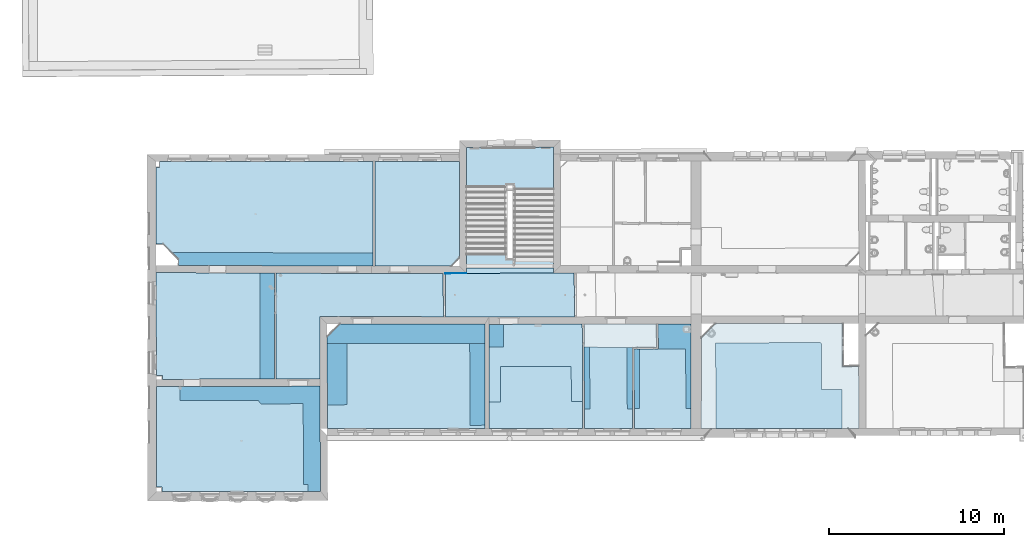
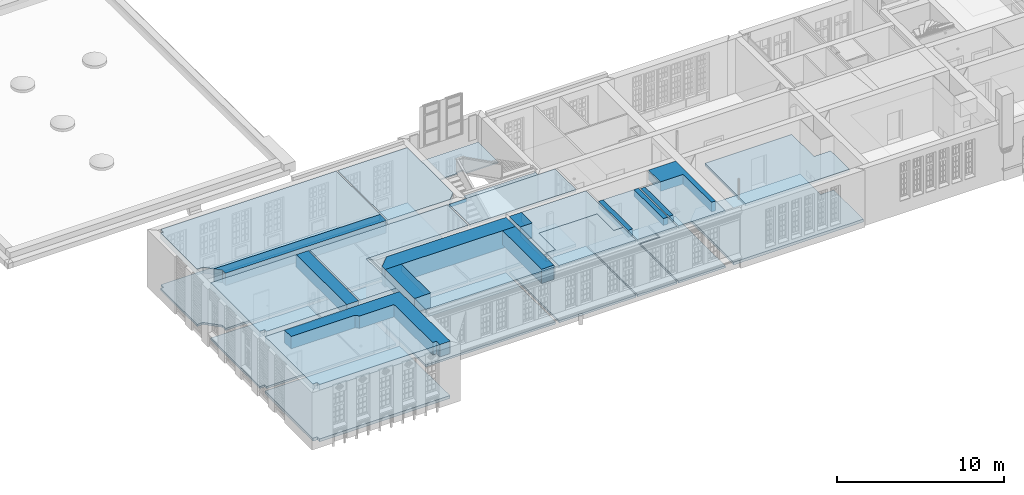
# One storey, part 2 of 90: 37 slabs.
"""IFC2X3 building model written with IfcOpenShell, lengths in metres."""

from ifc_helpers import new_model, entity, si_unit, converted_unit, derived_unit, money_unit, direction, frame, origin_with_axes, place, context, subcontext, project, spatial, polyline, outline, extrude, material, layer, layer_set, layer_usage, type_object, element, save


model = new_model("IFC2X3")

# Units and contexts
model_context = context("Model", 3, precision=1e-05, world=origin_with_axes(), true_north=direction((0.0, 1.0)))
body_context = subcontext(model_context, "Body", "Model", "MODEL_VIEW")
ifc_project = project(units=[si_unit("LENGTHUNIT", "METRE"), si_unit("AREAUNIT", "SQUARE_METRE"), si_unit("VOLUMEUNIT", "CUBIC_METRE"), converted_unit("PLANEANGLEUNIT", "DEGREE", entity("IfcPlaneAngleMeasure", 0.0174532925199), si_unit("PLANEANGLEUNIT", "RADIAN"), dimensions=[0, 0, 0, 0, 0, 0, 0]), money_unit("EUR"), converted_unit("TIMEUNIT", "Year", entity("IfcTimeMeasure", 31556926.0), si_unit("TIMEUNIT", "SECOND"), dimensions=[0, 0, 1, 0, 0, 0, 0]), si_unit("MASSUNIT", "GRAM", prefix="KILO"), si_unit("THERMODYNAMICTEMPERATUREUNIT", "DEGREE_CELSIUS"), si_unit("LUMINOUSINTENSITYUNIT", "LUMEN"), si_unit("ENERGYUNIT", "JOULE", prefix="MEGA"), derived_unit("THERMALCONDUCTANCEUNIT", [(si_unit("POWERUNIT", "WATT"), 1), (si_unit("LENGTHUNIT", "METRE"), -1), (si_unit("THERMODYNAMICTEMPERATUREUNIT", "KELVIN"), -1)]), derived_unit("SPECIFICHEATCAPACITYUNIT", [(si_unit("ENERGYUNIT", "JOULE"), 1), (si_unit("MASSUNIT", "GRAM", prefix="KILO"), -1), (si_unit("THERMODYNAMICTEMPERATUREUNIT", "KELVIN"), -1)]), derived_unit("MASSDENSITYUNIT", [(si_unit("MASSUNIT", "GRAM", prefix="KILO"), 1), (si_unit("VOLUMEUNIT", "CUBIC_METRE"), -1)])], contexts=[model_context])

# Site, building, storey
site_placement = place(None, origin_with_axes())
site = spatial("IfcSite", under=ifc_project, at=site_placement, Name="Gelände", CompositionType="ELEMENT")
building_placement = place(site_placement, origin_with_axes())
building = spatial("IfcBuilding", under=site, at=building_placement, Name="Gebäude", CompositionType="ELEMENT")
storey_placement = place(building_placement, frame((0.0, 0.0, 3.7), z_axis=(0.0, 0.0, 1.0), x_axis=(1.0, 0.0, 0.0)))
storey = spatial("IfcBuildingStorey", under=building, at=storey_placement, Name="1.OBERGESCHOSS", CompositionType="ELEMENT", Elevation=3.7)

# Slabs
ifc_material = material(Name="05_ALLGEMEIN - TRAGENDE BAUTEILE")
ifc_layer_1 = layer(ifc_material, 0.15, ventilated="UNKNOWN")
ifc_layer_set_1 = layer_set([ifc_layer_1], Name="05_ALLGEMEIN - TRAGENDE BAUTEILE 0.15")
ifc_layer_usage_1 = layer_usage(ifc_layer_set_1, "AXIS3", "NEGATIVE", 0.15)
slab_type_1 = type_object("IfcSlabType", Name="05_ALLGEMEIN - TRAGENDE BAUTEILE 150", PredefinedType="NOTDEFINED")
slab_1_placement = place(storey_placement, frame((-20.8053907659, 19.2710713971, 0.05), z_axis=(0.0, 0.0, 1.0), x_axis=(1.0, 0.0, 0.0)))
element("IfcSlab", 1, at=slab_1_placement, inside=storey, type_object=slab_type_1, material=ifc_layer_usage_1, Name="Belag-018", PredefinedType="NOTDEFINED", context=body_context, shape_type="SweptSolid", body=[
    extrude(outline(polyline([(0.0, 0.0), (-6.74704363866, 0.0269582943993), (-6.74154566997, -5.85852886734), (-6.39629284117, -5.85301119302), (-6.39316779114, -6.06708993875), (-0.00101142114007, -6.04887189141), (0.0, 0.0)])), frame((0.0, 0.0, -0.15), z_axis=(0.0, 0.0, 1.0), x_axis=(1.0, 0.0, 0.0)), (0.0, 0.0, 1.0), 0.15),
])
ifc_layer_usage_2 = layer_usage(ifc_layer_set_1, "AXIS3", "NEGATIVE", 0.15)
slab_2_placement = place(storey_placement, frame((-18.2160045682, 16.7907593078, 0.05), z_axis=(0.0, 0.0, 1.0), x_axis=(1.0, 0.0, 0.0)))
element("IfcSlab", 2, at=slab_2_placement, inside=storey, type_object=slab_type_1, material=ifc_layer_usage_2, Name="Belag-018", PredefinedType="NOTDEFINED", context=body_context, shape_type="SweptSolid", body=[
    extrude(outline(polyline([(0.0, 0.0), (7.05144080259, -0.0161533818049), (7.04643688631, 2.45947320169), (2.94969384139, 2.45818033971), (-2.48938626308, 2.47991253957), (-2.49039757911, -3.56827480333), (0.0123153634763, -3.56114191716), (0.0, 0.0)])), frame((0.0, 0.0, -0.15), z_axis=(0.0, 0.0, 1.0), x_axis=(1.0, 0.0, 0.0)), (0.0, 0.0, 1.0), 0.15),
])
ifc_layer_usage_3 = layer_usage(ifc_layer_set_1, "AXIS3", "NEGATIVE", 0.15)
slab_3_placement = place(storey_placement, frame((-27.358726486, 25.2961202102, 0.05), z_axis=(0.0, 0.0, 1.0), x_axis=(1.0, 0.0, 0.0)))
element("IfcSlab", 3, at=slab_3_placement, inside=storey, type_object=slab_type_1, material=ifc_layer_usage_3, Name="Belag-018", PredefinedType="NOTDEFINED", context=body_context, shape_type="SweptSolid", body=[
    extrude(outline(polyline([(0.0, 0.0), (-0.199317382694, 0.00674133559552), (-0.195225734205, -4.37336329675), (0.214204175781, -4.36434790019), (1.08362991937, -5.22141323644), (1.07938303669, -5.58855834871), (12.0931785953, -5.63256475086), (12.1819169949, -5.63253669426), (12.1878175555, 0.350147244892), (0.00791546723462, 0.33315417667), (0.0, 0.0)])), frame((0.0, 0.0, -0.15), z_axis=(0.0, 0.0, 1.0), x_axis=(1.0, 0.0, 0.0)), (0.0, 0.0, 1.0), 0.15),
])
ifc_layer_usage_4 = layer_usage(ifc_layer_set_1, "AXIS3", "NEGATIVE", 0.15)
slab_4_placement = place(storey_placement, frame((-15.0709087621, 25.6464069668, 0.05), z_axis=(0.0, 0.0, 1.0), x_axis=(1.0, 0.0, 0.0)))
element("IfcSlab", 4, at=slab_4_placement, inside=storey, type_object=slab_type_1, material=ifc_layer_usage_4, Name="Belag-019", PredefinedType="NOTDEFINED", context=body_context, shape_type="SweptSolid", body=[
    extrude(outline(polyline([(0.0, 0.0), (-0.0059007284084, -5.98279194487), (4.33635564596, -5.98142158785), (4.81934312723, -5.48156534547), (4.81882645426, 0.00672317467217), (0.0, 0.0)])), frame((0.0, 0.0, -0.15), z_axis=(0.0, 0.0, 1.0), x_axis=(1.0, 0.0, 0.0)), (0.0, 0.0, 1.0), 0.15),
])
ifc_layer_usage_5 = layer_usage(ifc_layer_set_1, "AXIS3", "NEGATIVE", 0.15)
slab_5_placement = place(storey_placement, frame((-17.7973566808, 15.6254754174, 0.05), z_axis=(0.0, 0.0, 1.0), x_axis=(1.0, 0.0, 0.0)))
element("IfcSlab", 5, at=slab_5_placement, inside=storey, type_object=slab_type_1, material=ifc_layer_usage_5, Name="Belag-019", PredefinedType="NOTDEFINED", context=body_context, shape_type="SweptSolid", body=[
    extrude(outline(polyline([(0.0, 0.0), (0.0180919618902, -5.23150167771), (9.01325008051, -5.23082463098), (9.0092510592, 0.729069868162), (0.756178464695, 0.747976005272), (0.0, 0.0)])), frame((0.0, 0.0, -0.15), z_axis=(0.0, 0.0, 1.0), x_axis=(1.0, 0.0, 0.0)), (0.0, 0.0, 1.0), 0.15),
])
ifc_layer_usage_6 = layer_usage(ifc_layer_set_1, "AXIS3", "NEGATIVE", 0.15)
slab_6_placement = place(storey_placement, frame((-3.23385756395, 16.3571590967, 0.05), z_axis=(0.0, 0.0, 1.0), x_axis=(1.0, 0.0, 0.0)))
element("IfcSlab", 6, at=slab_6_placement, inside=storey, type_object=slab_type_1, material=ifc_layer_usage_6, Name="Belag-020", PredefinedType="NOTDEFINED", context=body_context, shape_type="SweptSolid", body=[
    extrude(outline(polyline([(0.0, 0.0), (-5.32424281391, -0.0104408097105), (-5.32024900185, -5.96249104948), (0.0279434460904, -5.96208856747), (0.0, 0.0)])), frame((0.0, 0.0, -0.15), z_axis=(0.0, 0.0, 1.0), x_axis=(1.0, 0.0, 0.0)), (0.0, 0.0, 1.0), 0.15),
])
ifc_layer_usage_7 = layer_usage(ifc_layer_set_1, "AXIS3", "NEGATIVE", 0.15)
slab_7_placement = place(storey_placement, frame((0.994180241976, 16.3654502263, 0.05), z_axis=(0.0, 0.0, 1.0), x_axis=(1.0, 0.0, 0.0)))
element("IfcSlab", 7, at=slab_7_placement, inside=storey, type_object=slab_type_1, material=ifc_layer_usage_7, Name="Belag-021", PredefinedType="NOTDEFINED", context=body_context, shape_type="SweptSolid", body=[
    extrude(outline(polyline([(0.0, 0.0), (-4.12803759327, -0.00809506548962), (-4.10009324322, -5.97037213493), (-1.35224710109, -5.97016529), (-1.36603818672, -1.33737926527), (0.0185974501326, -1.33331700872), (0.0, 0.0)])), frame((0.0, 0.0, -0.15), z_axis=(0.0, 0.0, 1.0), x_axis=(1.0, 0.0, 0.0)), (0.0, 0.0, 1.0), 0.15),
])
ifc_layer_usage_8 = layer_usage(ifc_layer_set_1, "AXIS3", "NEGATIVE", 0.15)
slab_8_placement = place(storey_placement, frame((-0.27156072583, 14.9283647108, 0.05), z_axis=(0.0, 0.0, 1.0), x_axis=(1.0, 0.0, 0.0)))
element("IfcSlab", 8, at=slab_8_placement, inside=storey, type_object=slab_type_1, material=ifc_layer_usage_8, Name="Belag-022", PredefinedType="NOTDEFINED", context=body_context, shape_type="SweptSolid", body=[
    extrude(outline(polyline([(0.0, 0.0), (0.0134943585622, -4.5330722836), (3.24930751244, -4.53282872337), (3.25692419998, 1.44099020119), (1.36574798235, 1.43728160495), (1.38573888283, 0.00406556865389), (0.0, 0.0)])), frame((0.0, 0.0, -0.15), z_axis=(0.0, 0.0, 1.0), x_axis=(1.0, 0.0, 0.0)), (0.0, 0.0, 1.0), 0.15),
])
ifc_layer_2 = layer(ifc_material, 0.0901176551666, ventilated="UNKNOWN")
ifc_layer_set_2 = layer_set([ifc_layer_2], Name="05_ALLGEMEIN - TRAGENDE BAUTEILE 0.0901177")
ifc_layer_usage_9 = layer_usage(ifc_layer_set_2, "AXIS3", "NEGATIVE", 0.0901176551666)
slab_type_2 = type_object("IfcSlabType", Name="05_ALLGEMEIN - TRAGENDE BAUTEILE 90", PredefinedType="NOTDEFINED")
slab_9_placement = place(storey_placement, frame((-4.87822600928, 26.4569001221, 2.13011766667), z_axis=(0.0, 0.0, 1.0), x_axis=(1.0, 0.0, 0.0)))
element("IfcSlab", 9, at=slab_9_placement, inside=storey, type_object=slab_type_2, material=ifc_layer_usage_9, Name="Belag-005", PredefinedType="NOTDEFINED", context=body_context, shape_type="SweptSolid", body=[
    extrude(outline(polyline([(0.0, 0.0), (-4.96392944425, -0.0264165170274), (-4.96372142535, -2.23615034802), (-2.73684593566, -2.23594072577), (-2.73720143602, -2.08645140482), (-2.23306520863, -2.08157234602), (-2.23258981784, -2.41412604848), (0.0048361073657, -2.41496051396), (0.00570265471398, -0.796264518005), (0.000558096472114, -0.79627168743), (0.0, -0.396272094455), (0.0, 0.0)])), frame((0.0, 0.0, -0.0901176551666), z_axis=(0.0, 0.0, 1.0), x_axis=(1.0, 0.0, 0.0)), (0.0, 0.0, 1.0), 0.0901176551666),
])
ifc_layer_3 = layer(ifc_material, 0.21, ventilated="UNKNOWN")
ifc_layer_set_3 = layer_set([ifc_layer_3], Name="05_ALLGEMEIN - TRAGENDE BAUTEILE 0.21")
ifc_layer_usage_10 = layer_usage(ifc_layer_set_3, "AXIS3", "NEGATIVE", 0.21)
slab_type_3 = type_object("IfcSlabType", Name="05_ALLGEMEIN - TRAGENDE BAUTEILE 210", PredefinedType="NOTDEFINED")
slab_10_placement = place(storey_placement, frame((-18.2022553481, 12.8150042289, 0.11), z_axis=(0.0, 0.0, 1.0), x_axis=(1.0, 0.0, 0.0)))
element("IfcSlab", 10, at=slab_10_placement, inside=storey, type_object=slab_type_3, material=ifc_layer_usage_10, Name="Belag-019", PredefinedType="NOTDEFINED", context=body_context, shape_type="SweptSolid", body=[
    extrude(outline(polyline([(0.0, 0.0), (-9.34409800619, -0.026631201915), (-9.33874203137, -5.76007602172), (-9.02837283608, -5.75903293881), (-9.01831221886, -6.02305767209), (0.041802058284, -6.00378343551), (0.00697710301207, -2.42106173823), (0.00837263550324, -2.42106173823), (0.0, 0.0)])), frame((0.0, 0.0, -0.21), z_axis=(0.0, 0.0, 1.0), x_axis=(1.0, 0.0, 0.0)), (0.0, 0.0, 1.0), 0.21),
])
ifc_layer_usage_11 = layer_usage(ifc_layer_set_3, "AXIS3", "NEGATIVE", 0.21)
slab_11_placement = place(storey_placement, frame((-20.7053907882, 19.2706719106, 3.89), z_axis=(0.0, 0.0, 1.0), x_axis=(1.0, 0.0, 0.0)))
element("IfcSlab", 11, at=slab_11_placement, inside=storey, type_object=slab_type_3, material=ifc_layer_usage_11, Name="Belag-039", PredefinedType="NOTDEFINED", context=body_context, shape_type="SweptSolid", body=[
    extrude(outline(polyline([(0.0, 0.0), (-0.0010113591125, -6.04818740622), (2.50170162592, -6.04105457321), (2.48938616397, -2.47991254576), (9.54082702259, -2.49606599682), (9.5358231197, -0.0204394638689), (5.43908006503, -0.0217322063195), (0.0, 0.0)])), origin_with_axes(), (0.0, 0.0, 1.0), 0.21),
])
ifc_layer_4 = layer(ifc_material, 0.17, ventilated="UNKNOWN")
ifc_layer_set_4 = layer_set([ifc_layer_4], Name="05_ALLGEMEIN - TRAGENDE BAUTEILE 0.17")
ifc_layer_usage_12 = layer_usage(ifc_layer_set_4, "AXIS3", "NEGATIVE", 0.17)
slab_type_4 = type_object("IfcSlabType", Name="05_ALLGEMEIN - TRAGENDE BAUTEILE 170", PredefinedType="NOTDEFINED")
slab_12_placement = place(storey_placement, frame((-9.84147954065, 19.2506516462, 3.93), z_axis=(0.0, 0.0, 1.0), x_axis=(1.0, 0.0, 0.0)))
element("IfcSlab", 12, at=slab_12_placement, inside=storey, type_object=slab_type_4, material=ifc_layer_usage_12, Name="Belag-040", PredefinedType="NOTDEFINED", context=body_context, shape_type="SweptSolid", body=[
    extrude(outline(polyline([(0.0, 0.0), (-1.20807621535, -0.00619796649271), (-1.20308337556, -2.47632064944), (1.28309606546, -2.48201595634), (1.28309738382, -2.48393306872), (6.16469774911, -2.47436036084), (6.14711579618, 0.0258222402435), (4.96614117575, 0.0254784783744), (0.0, 0.0)])), origin_with_axes(), (0.0, 0.0, 1.0), 0.17),
])
ifc_layer_5 = layer(ifc_material, 0.2, ventilated="UNKNOWN")
ifc_layer_set_5 = layer_set([ifc_layer_5], Name="05_ALLGEMEIN - TRAGENDE BAUTEILE 0.2")
ifc_layer_usage_13 = layer_usage(ifc_layer_set_5, "AXIS3", "NEGATIVE", 0.2)
slab_type_5 = type_object("IfcSlabType", Name="05_ALLGEMEIN - TRAGENDE BAUTEILE 200", PredefinedType="NOTDEFINED")
slab_13_placement = place(storey_placement, frame((3.55774733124, 10.3955796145, 0.1), z_axis=(0.0, 0.0, 1.0), x_axis=(1.0, 0.0, 0.0)))
element("IfcSlab", 13, at=slab_13_placement, inside=storey, type_object=slab_type_5, material=ifc_layer_usage_13, Name="Belag-023", PredefinedType="NOTDEFINED", context=body_context, shape_type="SweptSolid", body=[
    extrude(outline(polyline([(0.0, 0.0), (0.582384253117, 4.38712184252e-05), (0.588982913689, 0.00875841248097), (8.40045728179, 0.00739894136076), (8.40045808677, 0.0123950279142), (9.00350098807, 0.0127835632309), (8.99006512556, 3.54553113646), (8.07109927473, 3.53707485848), (8.07111242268, 5.99551678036), (0.82099269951, 5.99526576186), (0.00658054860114, 5.16122493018), (0.0, 0.0)])), frame((0.0, 0.0, -0.2), z_axis=(0.0, 0.0, 1.0), x_axis=(1.0, 0.0, 0.0)), (0.0, 0.0, 1.0), 0.2),
])
ifc_layer_usage_14 = layer_usage(ifc_layer_set_5, "AXIS3", "NEGATIVE", 0.2)
slab_14_placement = place(storey_placement, frame((-11.0495675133, 19.250270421, 0.1), z_axis=(0.0, 0.0, 1.0), x_axis=(1.0, 0.0, 0.0)))
element("IfcSlab", 14, at=slab_14_placement, inside=storey, type_object=slab_type_5, material=ifc_layer_usage_14, Name="Belag-029", PredefinedType="NOTDEFINED", context=body_context, shape_type="SweptSolid", body=[
    extrude(outline(polyline([(0.0, 0.0), (0.0050045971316, -2.47593942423), (2.49118403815, -2.48163473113), (2.49118535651, -2.48355184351), (7.3727857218, -2.47397913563), (7.35520376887, 0.0262034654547), (6.17422914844, 0.0258597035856), (6.17464152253, 0.961176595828), (3.94316187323, 0.962160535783), (3.95035934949, 0.7652673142), (3.44450458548, 0.761862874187), (3.44377248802, 1.06970616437), (1.2079872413, 1.06949562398), (1.20808797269, 0.000381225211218), (0.0, 0.0)])), frame((0.0, 0.0, -0.2), z_axis=(0.0, 0.0, 1.0), x_axis=(1.0, 0.0, 0.0)), (0.0, 0.0, 1.0), 0.2),
])
ifc_layer_usage_15 = layer_usage(ifc_layer_set_5, "AXIS3", "NEGATIVE", 0.2)
slab_15_placement = place(storey_placement, frame((-8.55513194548, 11.9228161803, 3.9), z_axis=(0.0, 0.0, 1.0), x_axis=(1.0, 0.0, 0.0)))
element("IfcSlab", 15, at=slab_15_placement, inside=storey, type_object=slab_type_5, material=ifc_layer_usage_15, Name="Belag-039", PredefinedType="NOTDEFINED", context=body_context, shape_type="SweptSolid", body=[
    extrude(outline(polyline([(0.0, 0.0), (0.00102538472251, -1.52814813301), (5.34921783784, -1.52774559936), (5.34199550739, 0.0132397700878), (4.6998241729, 0.00869185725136), (4.6913553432, 2.01149929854), (0.650043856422, 2.01330169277), (0.655645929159, 0.00176357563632), (0.0, 0.0)])), origin_with_axes(), (0.0, 0.0, 1.0), 0.2),
])
ifc_layer_usage_16 = layer_usage(ifc_layer_set_5, "AXIS3", "NEGATIVE", 0.2)
slab_16_placement = place(storey_placement, frame((-3.11108648, 11.4988970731, 3.9), z_axis=(0.0, 0.0, 1.0), x_axis=(1.0, 0.0, 0.0)))
element("IfcSlab", 16, at=slab_16_placement, inside=storey, type_object=slab_type_5, material=ifc_layer_usage_16, Name="Belag-039", PredefinedType="NOTDEFINED", context=body_context, shape_type="SweptSolid", body=[
    extrude(outline(polyline([(0.0, 0.0), (0.00517341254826, -1.10381898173), (2.75301968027, -1.10361217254), (2.74968139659, 0.0177937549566), (2.44783103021, 0.0168951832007), (2.43442060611, 3.53045473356), (0.294943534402, 3.53944522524), (0.317552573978, 0.00948381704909), (0.0, 0.0)])), origin_with_axes(), (0.0, 0.0, 1.0), 0.2),
])
ifc_layer_usage_17 = layer_usage(ifc_layer_set_5, "AXIS3", "NEGATIVE", 0.2)
slab_17_placement = place(storey_placement, frame((0.0445217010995, 11.5498040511, 3.9), z_axis=(0.0, 0.0, 1.0), x_axis=(1.0, 0.0, 0.0)))
element("IfcSlab", 17, at=slab_17_placement, inside=storey, type_object=slab_type_5, material=ifc_layer_usage_17, Name="Belag-039", PredefinedType="NOTDEFINED", context=body_context, shape_type="SweptSolid", body=[
    extrude(outline(polyline([(0.0, 0.0), (-0.305994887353, -0.0100882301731), (-0.302588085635, -1.15451162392), (2.93322511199, -1.15426809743), (2.93469208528, -0.00368622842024), (2.6481570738, 0.000861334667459), (2.61765555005, 3.37724320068), (1.0696555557, 3.38262620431), (-0.015431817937, 3.37944278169), (0.0, 0.0)])), origin_with_axes(), (0.0, 0.0, 1.0), 0.2),
])
ifc_layer_6 = layer(ifc_material, 0.24, ventilated="UNKNOWN")
ifc_layer_set_6 = layer_set([ifc_layer_6], Name="05_ALLGEMEIN - TRAGENDE BAUTEILE 0.24")
ifc_layer_usage_18 = layer_usage(ifc_layer_set_6, "AXIS3", "NEGATIVE", 0.24)
slab_type_6 = type_object("IfcSlabType", Name="05_ALLGEMEIN - TRAGENDE BAUTEILE 240", PredefinedType="NOTDEFINED")
slab_18_placement = place(storey_placement, frame((-9.84150821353, 19.5543055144, 3.86), z_axis=(0.0, 0.0, 1.0), x_axis=(1.0, 0.0, 0.0)))
element("IfcSlab", 18, at=slab_18_placement, inside=storey, type_object=slab_type_6, material=ifc_layer_usage_18, Name="Belag-040", PredefinedType="NOTDEFINED", context=body_context, shape_type="SweptSolid", body=[
    extrude(outline(polyline([(0.0, 0.0), (2.87060688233e-05, -0.303653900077), (4.96616987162, -0.278175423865), (4.96639528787, 0.233154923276), (4.96602174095, -0.0077016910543), (0.0, 0.0)])), origin_with_axes(), (0.0, 0.0, 1.0), 0.24),
])
ifc_layer_usage_19 = layer_usage(ifc_layer_set_6, "AXIS3", "NEGATIVE", 0.24)
slab_19_placement = place(storey_placement, frame((-11.0495675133, 19.2502704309, 3.86), z_axis=(0.0, 0.0, 1.0), x_axis=(1.0, 0.0, 0.0)))
element("IfcSlab", 19, at=slab_19_placement, inside=storey, type_object=slab_type_6, material=ifc_layer_usage_19, Name="Belag-040", PredefinedType="NOTDEFINED", context=body_context, shape_type="SweptSolid", body=[
    extrude(outline(polyline([(0.0, 0.0), (1.17768487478e-05, -0.00581675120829), (1.20808800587, 0.000381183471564), (0.0, 0.0)])), origin_with_axes(), (0.0, 0.0, 1.0), 0.24),
])
ifc_layer_7 = layer(ifc_material, 0.43, ventilated="UNKNOWN")
ifc_layer_set_7 = layer_set([ifc_layer_7], Name="05_ALLGEMEIN - TRAGENDE BAUTEILE 0.43")
ifc_layer_usage_20 = layer_usage(ifc_layer_set_7, "AXIS3", "NEGATIVE", 0.43)
slab_type_7 = type_object("IfcSlabType", Name="05_ALLGEMEIN - TRAGENDE BAUTEILE 430", PredefinedType="NOTDEFINED")
slab_20_placement = place(storey_placement, frame((-27.5524343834, 19.2980296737, 3.67), z_axis=(0.0, 0.0, 1.0), x_axis=(1.0, 0.0, 0.0)))
element("IfcSlab", 20, at=slab_20_placement, inside=storey, type_object=slab_type_7, material=ifc_layer_usage_20, Name="Belag-036", PredefinedType="NOTDEFINED", context=body_context, shape_type="SweptSolid", body=[
    extrude(outline(polyline([(0.0, 0.0), (0.00549801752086, -5.8854871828), (0.350750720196, -5.87996940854), (0.353875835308, -6.09404821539), (5.93310364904, -6.07814713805), (5.91832178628, -0.0236470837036), (0.0, 0.0)])), origin_with_axes(), (0.0, 0.0, 1.0), 0.43),
])
ifc_layer_usage_21 = layer_usage(ifc_layer_set_7, "AXIS3", "NEGATIVE", 0.43)
slab_21_placement = place(storey_placement, frame((-15.0768094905, 19.663615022, 3.67), z_axis=(0.0, 0.0, 1.0), x_axis=(1.0, 0.0, 0.0)))
element("IfcSlab", 21, at=slab_21_placement, inside=storey, type_object=slab_type_7, material=ifc_layer_usage_21, Name="Belag-036", PredefinedType="NOTDEFINED", context=body_context, shape_type="SweptSolid", body=[
    extrude(outline(polyline([(0.0, 0.0), (4.34225637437, 0.00137035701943), (4.82524385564, 0.5012265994), (4.82472718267, 5.98951511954), (0.0059007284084, 5.98279194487), (0.0, 0.0)])), origin_with_axes(), (0.0, 0.0, 1.0), 0.43),
])
ifc_layer_usage_22 = layer_usage(ifc_layer_set_7, "AXIS3", "NEGATIVE", 0.43)
slab_22_placement = place(storey_placement, frame((-27.5580438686, 25.3028616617, 3.67), z_axis=(0.0, 0.0, 1.0), x_axis=(1.0, 0.0, 0.0)))
element("IfcSlab", 22, at=slab_22_placement, inside=storey, type_object=slab_type_7, material=ifc_layer_usage_22, Name="Belag-036", PredefinedType="NOTDEFINED", context=body_context, shape_type="SweptSolid", body=[
    extrude(outline(polyline([(0.0, 0.0), (0.00409164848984, -4.38010463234), (0.413521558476, -4.37108942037), (0.89543734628, -4.84615386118), (12.3819653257, -4.89807037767), (12.3871349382, 0.343405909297), (0.207232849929, 0.326412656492), (0.199317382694, -0.00674133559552), (0.0, 0.0)])), origin_with_axes(), (0.0, 0.0, 1.0), 0.43),
])
ifc_layer_usage_23 = layer_usage(ifc_layer_set_7, "AXIS3", "NEGATIVE", 0.43)
slab_23_placement = place(storey_placement, frame((-27.5463533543, 12.7883729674, 3.67), z_axis=(0.0, 0.0, 1.0), x_axis=(1.0, 0.0, 0.0)))
element("IfcSlab", 23, at=slab_23_placement, inside=storey, type_object=slab_type_7, material=ifc_layer_usage_23, Name="Belag-036", PredefinedType="NOTDEFINED", context=body_context, shape_type="SweptSolid", body=[
    extrude(outline(polyline([(0.0, 0.0), (0.00535592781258, -5.73344481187), (0.315725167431, -5.73240169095), (0.325785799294, -5.99642641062), (8.66902314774, -5.97867720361), (8.67119944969, -5.58587931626), (8.40832974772, -5.58394593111), (8.38127863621, -0.973973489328), (5.99557723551, -0.983754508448), (5.7930992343, -0.778266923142), (1.36570099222, -0.78498370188), (1.34155893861, 0.00382348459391), (0.0, 0.0)])), origin_with_axes(), (0.0, 0.0, 1.0), 0.43),
])
ifc_layer_8 = layer(ifc_material, 0.91, ventilated="UNKNOWN")
ifc_layer_set_8 = layer_set([ifc_layer_8], Name="05_ALLGEMEIN - TRAGENDE BAUTEILE 0.91")
ifc_layer_usage_24 = layer_usage(ifc_layer_set_8, "AXIS3", "NEGATIVE", 0.91)
slab_type_8 = type_object("IfcSlabType", Name="05_ALLGEMEIN - TRAGENDE BAUTEILE 910", PredefinedType="NOTDEFINED")
slab_24_placement = place(storey_placement, frame((-20.8053907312, 19.271071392, 3.19), z_axis=(0.0, 0.0, 1.0), x_axis=(1.0, 0.0, 0.0)))
element("IfcSlab", 24, at=slab_24_placement, inside=storey, type_object=slab_type_8, material=ifc_layer_usage_24, Name="Belag-037", PredefinedType="NOTDEFINED", context=body_context, shape_type="SweptSolid", body=[
    extrude(outline(polyline([(0.0, 0.0), (-0.828721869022, 0.00331122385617), (-0.813939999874, -6.05118879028), (-0.00101144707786, -6.04887187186), (0.0, 0.0)])), origin_with_axes(), (0.0, 0.0, 1.0), 0.91),
])
ifc_layer_usage_25 = layer_usage(ifc_layer_set_8, "AXIS3", "NEGATIVE", 0.91)
slab_25_placement = place(storey_placement, frame((-15.1760785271, 20.4047912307, 3.19), z_axis=(0.0, 0.0, 1.0), x_axis=(1.0, 0.0, 0.0)))
element("IfcSlab", 25, at=slab_25_placement, inside=storey, type_object=slab_type_8, material=ifc_layer_usage_25, Name="Belag-037", PredefinedType="NOTDEFINED", context=body_context, shape_type="SweptSolid", body=[
    extrude(outline(polyline([(0.0, 0.0), (-11.4865279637, 0.0519165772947), (-11.0990180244, -0.330084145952), (-11.103264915, -0.697229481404), (-0.0894693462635, -0.741235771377), (-0.000731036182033, -0.741207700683), (0.0, 0.0)])), origin_with_axes(), (0.0, 0.0, 1.0), 0.91),
])
ifc_layer_usage_26 = layer_usage(ifc_layer_set_8, "AXIS3", "NEGATIVE", 0.91)
slab_26_placement = place(storey_placement, frame((-18.2022553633, 12.8150042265, 3.19), z_axis=(0.0, 0.0, 1.0), x_axis=(1.0, 0.0, 0.0)))
element("IfcSlab", 26, at=slab_26_placement, inside=storey, type_object=slab_type_8, material=ifc_layer_usage_26, Name="Belag-037", PredefinedType="NOTDEFINED", context=body_context, shape_type="SweptSolid", body=[
    extrude(outline(polyline([(0.0, 0.0), (-8.00253905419, -0.0228076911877), (-7.97839696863, -0.8116149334), (-3.55099868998, -0.804898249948), (-3.34852076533, -1.01038575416), (-0.962819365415, -1.0006047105), (-0.935768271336, -5.61057719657), (-0.672898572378, -5.61251058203), (-0.675074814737, -6.0053084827), (0.0418020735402, -6.00378337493), (0.00697716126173, -2.4210617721), (0.00837268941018, -2.42106165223), (0.0, 0.0)])), origin_with_axes(), (0.0, 0.0, 1.0), 0.91),
])
ifc_layer_9 = layer(ifc_material, 1.05, ventilated="UNKNOWN")
ifc_layer_set_9 = layer_set([ifc_layer_9], Name="05_ALLGEMEIN - TRAGENDE BAUTEILE 1.05")
ifc_layer_usage_27 = layer_usage(ifc_layer_set_9, "AXIS3", "NEGATIVE", 1.05)
slab_type_9 = type_object("IfcSlabType", Name="05_ALLGEMEIN - TRAGENDE BAUTEILE 1050", PredefinedType="NOTDEFINED")
slab_27_placement = place(storey_placement, frame((-8.78736390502, 15.2490818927, 3.05), z_axis=(0.0, 0.0, 1.0), x_axis=(1.0, 0.0, 0.0)))
element("IfcSlab", 27, at=slab_27_placement, inside=storey, type_object=slab_type_9, material=ifc_layer_usage_27, Name="Belag-038", PredefinedType="NOTDEFINED", context=body_context, shape_type="SweptSolid", body=[
    extrude(outline(polyline([(0.0, 0.0), (-0.868090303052, 0.000382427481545), (-0.856845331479, -4.67860560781), (0.00312753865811, -4.66100460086), (0.0, 0.0)])), origin_with_axes(), (0.0, 0.0, 1.0), 1.05),
])
ifc_layer_usage_28 = layer_usage(ifc_layer_set_9, "AXIS3", "NEGATIVE", 1.05)
slab_28_placement = place(storey_placement, frame((-16.6647647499, 15.2525520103, 3.05), z_axis=(0.0, 0.0, 1.0), x_axis=(1.0, 0.0, 0.0)))
element("IfcSlab", 28, at=slab_28_placement, inside=storey, type_object=slab_type_9, material=ifc_layer_usage_28, Name="Belag-038", PredefinedType="NOTDEFINED", context=body_context, shape_type="SweptSolid", body=[
    extrude(outline(polyline([(0.0, 0.0), (-1.13130398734, 0.000498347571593), (-1.11915902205, -3.51136844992), (0.00699706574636, -3.4961314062), (0.0, 0.0)])), origin_with_axes(), (0.0, 0.0, 1.0), 1.05),
])
ifc_layer_10 = layer(ifc_material, 1.29, ventilated="UNKNOWN")
ifc_layer_set_10 = layer_set([ifc_layer_10], Name="05_ALLGEMEIN - TRAGENDE BAUTEILE 1.29")
ifc_layer_usage_29 = layer_usage(ifc_layer_set_10, "AXIS3", "NEGATIVE", 1.29)
slab_type_10 = type_object("IfcSlabType", Name="05_ALLGEMEIN - TRAGENDE BAUTEILE 1290", PredefinedType="NOTDEFINED")
slab_29_placement = place(storey_placement, frame((-17.7973566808, 15.6254754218, 2.81), z_axis=(0.0, 0.0, 1.0), x_axis=(1.0, 0.0, 0.0)))
element("IfcSlab", 29, at=slab_29_placement, inside=storey, type_object=slab_type_10, material=ifc_layer_usage_29, Name="Belag-038", PredefinedType="NOTDEFINED", context=body_context, shape_type="SweptSolid", body=[
    extrude(outline(polyline([(0.0, 0.0), (0.00128795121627, -0.372425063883), (9.00999276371, -0.376393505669), (9.00925098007, 0.729069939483), (0.756178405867, 0.747975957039), (0.0, 0.0)])), origin_with_axes(), (0.0, 0.0, 1.0), 1.29),
])
ifc_layer_11 = layer(ifc_material, 1.08, ventilated="UNKNOWN")
ifc_layer_set_11 = layer_set([ifc_layer_11], Name="05_ALLGEMEIN - TRAGENDE BAUTEILE 1.08")
ifc_layer_usage_30 = layer_usage(ifc_layer_set_11, "AXIS3", "NEGATIVE", 1.08)
slab_type_11 = type_object("IfcSlabType", Name="05_ALLGEMEIN - TRAGENDE BAUTEILE 1080", PredefinedType="NOTDEFINED")
slab_30_placement = place(storey_placement, frame((-7.7179552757, 16.3483658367, 3.02), z_axis=(0.0, 0.0, 1.0), x_axis=(1.0, 0.0, 0.0)))
element("IfcSlab", 30, at=slab_30_placement, inside=storey, type_object=slab_type_11, material=ifc_layer_usage_30, Name="Belag-038", PredefinedType="NOTDEFINED", context=body_context, shape_type="SweptSolid", body=[
    extrude(outline(polyline([(0.0, 0.0), (-0.840145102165, -0.00164751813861), (-0.839275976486, -1.29691106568), (-0.00667311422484, -1.29653249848), (0.0, 0.0)])), origin_with_axes(), (0.0, 0.0, 1.0), 1.08),
])
ifc_layer_12 = layer(ifc_material, 0.67, ventilated="UNKNOWN")
ifc_layer_set_12 = layer_set([ifc_layer_12], Name="05_ALLGEMEIN - TRAGENDE BAUTEILE 0.67")
ifc_layer_usage_31 = layer_usage(ifc_layer_set_12, "AXIS3", "NEGATIVE", 0.67)
slab_type_12 = type_object("IfcSlabType", Name="05_ALLGEMEIN - TRAGENDE BAUTEILE 670", PredefinedType="NOTDEFINED")
slab_31_placement = place(storey_placement, frame((-8.55723125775, 15.051454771, 3.43), z_axis=(0.0, 0.0, 1.0), x_axis=(1.0, 0.0, 0.0)))
element("IfcSlab", 31, at=slab_31_placement, inside=storey, type_object=slab_type_12, material=ifc_layer_usage_31, Name="Belag-039", PredefinedType="NOTDEFINED", context=body_context, shape_type="SweptSolid", body=[
    extrude(outline(polyline([(0.0, 0.0), (0.00209929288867, -3.1286385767), (0.657745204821, -3.12687501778), (0.652143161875, -1.11533690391), (4.69345469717, -1.11713924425), (4.70192353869, -3.11994676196), (5.34409478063, -3.11539882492), (5.3233737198, 1.30570435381), (0.839275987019, 1.29691108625), (0.832602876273, 0.000378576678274), (0.0, 0.0)])), origin_with_axes(), (0.0, 0.0, 1.0), 0.67),
])
ifc_layer_13 = layer(ifc_material, 0.18, ventilated="UNKNOWN")
ifc_layer_set_13 = layer_set([ifc_layer_13], Name="05_ALLGEMEIN - TRAGENDE BAUTEILE 0.18")
ifc_layer_usage_32 = layer_usage(ifc_layer_set_13, "AXIS3", "NEGATIVE", 0.18)
slab_type_13 = type_object("IfcSlabType", Name="05_ALLGEMEIN - TRAGENDE BAUTEILE 180", PredefinedType="NOTDEFINED")
slab_32_placement = place(storey_placement, frame((4.38651601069, 15.2868612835, 3.92), z_axis=(0.0, 0.0, 1.0), x_axis=(1.0, 0.0, 0.0)))
element("IfcSlab", 32, at=slab_32_placement, inside=storey, type_object=slab_type_13, material=ifc_layer_usage_32, Name="Belag-039", PredefinedType="NOTDEFINED", context=body_context, shape_type="SweptSolid", body=[
    extrude(outline(polyline([(0.0, 0.0), (0.00321484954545, -4.88256561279), (7.2099954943, -4.88381972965), (7.19735859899, -2.64860434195), (6.04031219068, -2.65830142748), (6.02547067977, -0.0313172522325), (5.98712712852, 0.0127266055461), (0.0, 0.0)])), origin_with_axes(), (0.0, 0.0, 1.0), 0.18),
])
ifc_layer_14 = layer(ifc_material, 0.5, ventilated="UNKNOWN")
ifc_layer_set_14 = layer_set([ifc_layer_14], Name="05_ALLGEMEIN - TRAGENDE BAUTEILE 0.5")
ifc_layer_usage_33 = layer_usage(ifc_layer_set_14, "AXIS3", "NEGATIVE", 0.5)
slab_type_14 = type_object("IfcSlabType", Name="05_ALLGEMEIN - TRAGENDE BAUTEILE 500", PredefinedType="NOTDEFINED")
slab_33_placement = place(storey_placement, frame((-0.371857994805, 15.0280709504, 3.6), z_axis=(0.0, 0.0, 1.0), x_axis=(1.0, 0.0, 0.0)))
element("IfcSlab", 33, at=slab_33_placement, inside=storey, type_object=slab_type_14, material=ifc_layer_usage_33, Name="Belag-039", PredefinedType="NOTDEFINED", context=body_context, shape_type="SweptSolid", body=[
    extrude(outline(polyline([(0.0, 0.0), (-0.304807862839, 0.00128084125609), (-0.291397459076, -3.51227866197), (0.0104529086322, -3.51138007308), (0.0, 0.0)])), origin_with_axes(), (0.0, 0.0, 1.0), 0.5),
])
ifc_layer_usage_34 = layer_usage(ifc_layer_set_14, "AXIS3", "NEGATIVE", 0.5)
slab_34_placement = place(storey_placement, frame((0.0290898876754, 14.9292468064, 3.6), z_axis=(0.0, 0.0, 1.0), x_axis=(1.0, 0.0, 0.0)))
element("IfcSlab", 34, at=slab_34_placement, inside=storey, type_object=slab_type_14, material=ifc_layer_usage_34, Name="Belag-039", PredefinedType="NOTDEFINED", context=body_context, shape_type="SweptSolid", body=[
    extrude(outline(polyline([(0.0, 0.0), (-0.300650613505, -0.000882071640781), (-0.290563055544, -3.38953099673), (0.01543180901, -3.37944278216), (0.0, 0.0)])), origin_with_axes(), (0.0, 0.0, 1.0), 0.5),
])
ifc_layer_15 = layer(ifc_material, 0.7, ventilated="UNKNOWN")
ifc_layer_set_15 = layer_set([ifc_layer_15], Name="05_ALLGEMEIN - TRAGENDE BAUTEILE 0.7")
ifc_layer_usage_35 = layer_usage(ifc_layer_set_15, "AXIS3", "NEGATIVE", 0.7)
slab_type_15 = type_object("IfcSlabType", Name="05_ALLGEMEIN - TRAGENDE BAUTEILE 700", PredefinedType="NOTDEFINED")
slab_35_placement = place(storey_placement, frame((2.98536351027, 16.369354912, 3.4), z_axis=(0.0, 0.0, 1.0), x_axis=(1.0, 0.0, 0.0)))
element("IfcSlab", 35, at=slab_35_placement, inside=storey, type_object=slab_type_15, material=ifc_layer_usage_35, Name="Belag-039", PredefinedType="NOTDEFINED", context=body_context, shape_type="SweptSolid", body=[
    extrude(outline(polyline([(0.0, 0.0), (-1.89117628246, -0.0037085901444), (-1.8711854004, -1.43692465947), (-0.323186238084, -1.44230764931), (-0.2926847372, -4.81868954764), (-0.00614971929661, -4.82323709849), (0.0, 0.0)])), origin_with_axes(), (0.0, 0.0, 1.0), 0.7),
])
ifc_layer_16 = layer(ifc_material, 0.51, ventilated="UNKNOWN")
ifc_layer_set_16 = layer_set([ifc_layer_16], Name="05_ALLGEMEIN - TRAGENDE BAUTEILE 0.51")
ifc_layer_usage_36 = layer_usage(ifc_layer_set_16, "AXIS3", "NEGATIVE", 0.51)
slab_type_16 = type_object("IfcSlabType", Name="05_ALLGEMEIN - TRAGENDE BAUTEILE 510", PredefinedType="NOTDEFINED")
slab_36_placement = place(storey_placement, frame((-2.81614295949, 15.0383422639, 3.59), z_axis=(0.0, 0.0, 1.0), x_axis=(1.0, 0.0, 0.0)))
element("IfcSlab", 36, at=slab_36_placement, inside=storey, type_object=slab_type_16, material=ifc_layer_usage_36, Name="Belag-039", PredefinedType="NOTDEFINED", context=body_context, shape_type="SweptSolid", body=[
    extrude(outline(polyline([(0.0, 0.0), (-0.311538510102, 0.00130916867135), (-0.294943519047, -3.53944521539), (0.0226090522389, -3.52996140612), (0.0, 0.0)])), origin_with_axes(), (0.0, 0.0, 1.0), 0.51),
])
ifc_layer_17 = layer(ifc_material, 0.57, ventilated="UNKNOWN")
ifc_layer_set_17 = layer_set([ifc_layer_17], Name="05_ALLGEMEIN - TRAGENDE BAUTEILE 0.57")
ifc_layer_usage_37 = layer_usage(ifc_layer_set_17, "AXIS3", "NEGATIVE", 0.57)
slab_type_17 = type_object("IfcSlabType", Name="05_ALLGEMEIN - TRAGENDE BAUTEILE 570", PredefinedType="NOTDEFINED")
slab_37_placement = place(storey_placement, frame((-16.6577676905, 11.7564206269, 3.53), z_axis=(0.0, 0.0, 1.0), x_axis=(1.0, 0.0, 0.0)))
element("IfcSlab", 37, at=slab_37_placement, inside=storey, type_object=slab_type_17, material=ifc_layer_usage_37, Name="Belag-039", PredefinedType="NOTDEFINED", context=body_context, shape_type="SweptSolid", body=[
    extrude(outline(polyline([(0.0, 0.0), (-1.12615608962, -0.0152370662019), (-1.12149704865, -1.36244688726), (7.87366109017, -1.36176991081), (7.87353127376, -1.16834333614), (7.01355848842, -1.18594432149), (7.00231354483, 3.4930437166), (-0.00699707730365, 3.49613141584), (0.0, 0.0)])), origin_with_axes(), (0.0, 0.0, 1.0), 0.57),
])

save(model, "model.ifc")
